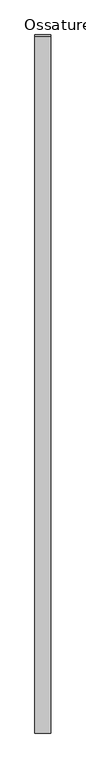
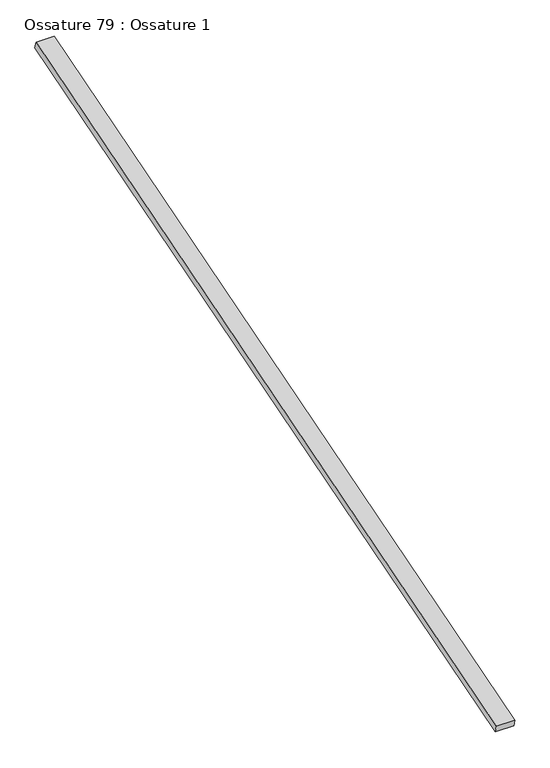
"""IFC4 building model written with IfcOpenShell, lengths in millimetres: beam geometry, Ossature 79 : Ossature 1."""

from ifc_helpers import new_model, si_unit, frame, origin, place, context, project, spatial, polyline, outline, extrude, source, transform, mapped, element, save


def ossature_79_ossature_1_c97be4b4(model_context):
    return source(origin(), model_context, "Body", "SweptSolid", [
        extrude(outline(polyline([(0.0, 0.0), (0.0, -4543.0299679), (-100.0, -4543.0299679), (-100.0, 0.0), (0.0, 0.0)])), frame((19101.8466393, -833.3913565, 8153.6336115), z_axis=(0.0, -0.28734788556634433, 0.9578262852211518), x_axis=(-1.0, 0.0, 0.0)), (0.0, 0.0, 1.0), 40.0),
    ])


if __name__ == "__main__":
    model = new_model("IFC4")
    model_context = context("Model", 3, world=origin())
    ifc_project = project(units=[si_unit("LENGTHUNIT", "METRE", prefix="MILLI")], contexts=[model_context])
    site = spatial("IfcSite", under=ifc_project)
    building = spatial("IfcBuilding", under=site)
    placement = place(None, origin())
    ossature_79_ossature_1_shape = ossature_79_ossature_1_c97be4b4(model_context)
    element("IfcBeam", 1, ObjectType="Ossature 79 : Ossature 1", at=placement, inside=building, context=model_context, shape_type="MappedRepresentation", body=[
        mapped(ossature_79_ossature_1_shape, transform((0.0, 0.0, 0.0), x_axis=(1.0, 0.0, 0.0), y_axis=(0.0, 1.0, 0.0), z_axis=(0.0, 0.0, 1.0))),
    ])
    save(model, "model.ifc")
